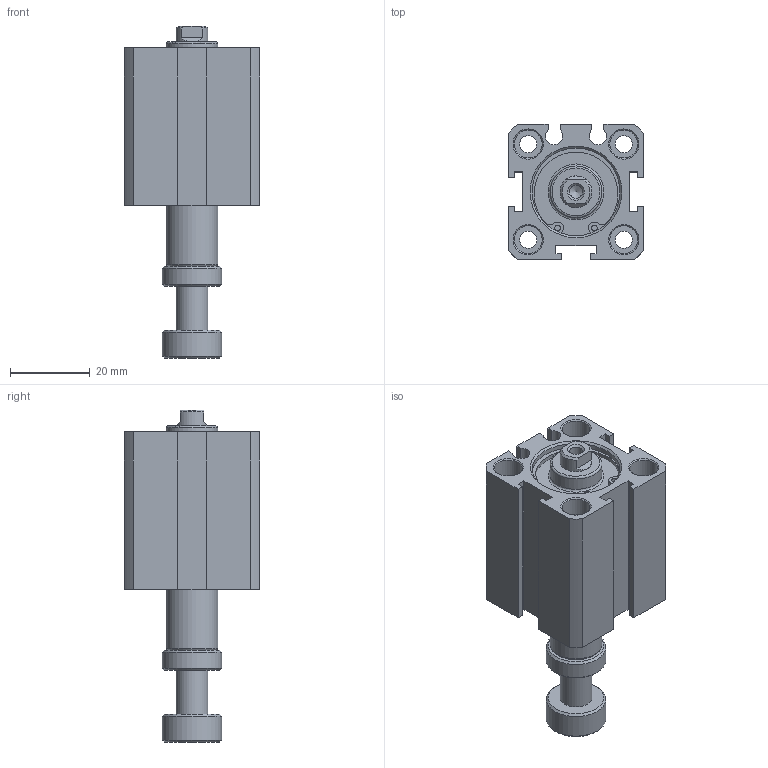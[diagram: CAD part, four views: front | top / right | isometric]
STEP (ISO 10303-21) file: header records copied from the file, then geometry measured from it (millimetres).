
FILE_DESCRIPTION((''),'2;1');
FILE_NAME('I:\3D電子目錄\氣缸\JDAR\JDAR\JDAR20\JDAR20x20.stp','2007-03-14T09:15:28',('662F206'),(''),'Autodesk Inventor 11','Autodesk Inventor 11','');
FILE_SCHEMA(('AUTOMOTIVE_DESIGN { 1 0 10303 214 1 1 1 1 }'));
Length unit declared in the file: millimetre
Products named in the file (3): JDAR20; R 形環 23
Assembly tree (3 placements, depth 2):
  JDAR20
    JDAR20
    R 形環 23  x2
Bounding box: 34 x 34 x 83.3 mm (x, y, z)
Volume: 40444.5 mm3; surface area: 15639.4 mm2
Topology: 3 solids, 3 shells, 148 faces, 336 edges, 218 vertices
Faces by surface type: plane 70, cylinder 49, cone 19, bspline 8, torus 2
Full cylindrical faces by diameter (mm): 1.5 x6, 4.3 x4, 7 x8, 8 x1, 13 x2, 15 x2, 22 x4, 23.2 x2
Entity records: 3721 total; most frequent: CARTESIAN_POINT 750, DIRECTION 626, ORIENTED_EDGE 494, AXIS2_PLACEMENT_3D 249, EDGE_CURVE 247, EDGE_LOOP 224, VERTEX_POINT 191, FACE_OUTER_BOUND 136
